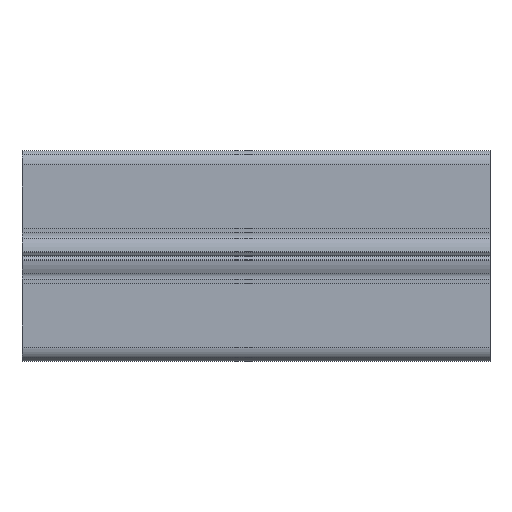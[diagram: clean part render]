
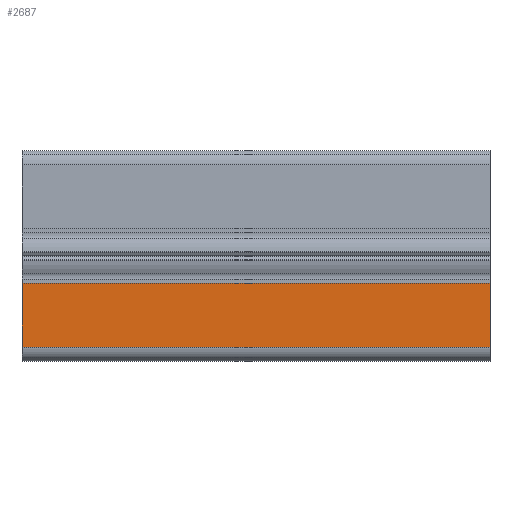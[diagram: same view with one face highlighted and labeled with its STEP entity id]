
A CAD part, left-side view. The second image highlights one B-rep face of the part: STEP entity #2687.
In plain terms, the highlighted planar face has unit normal (-1, 0, 0).
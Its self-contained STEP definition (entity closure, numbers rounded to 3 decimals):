
#203 = ORIENTED_EDGE ( 'NONE', *, *, #5250, .F. ) ;
#288 = CARTESIAN_POINT ( 'NONE',  ( -22.5, 50., -5.876 ) ) ;
#838 = CARTESIAN_POINT ( 'NONE',  ( -22.5, 50., -19.5 ) ) ;
#856 = ORIENTED_EDGE ( 'NONE', *, *, #2594, .F. ) ;
#859 = DIRECTION ( 'NONE',  ( 0., -1., 0. ) ) ;
#1563 = CARTESIAN_POINT ( 'NONE',  ( -22.5, 50., -19.5 ) ) ;
#2552 = LINE ( 'NONE', #4955, #3886 ) ;
#2594 = EDGE_CURVE ( 'NONE', #7185, #4514, #4486, .T. ) ;
#2687 = ADVANCED_FACE ( 'NONE', ( #4059 ), #6996, .F. ) ;
#3136 = LINE ( 'NONE', #7460, #6427 ) ;
#3275 = CARTESIAN_POINT ( 'NONE',  ( -22.5, 50., -19.5 ) ) ;
#3353 = VERTEX_POINT ( 'NONE', #7852 ) ;
#3463 = DIRECTION ( 'NONE',  ( 1., 0., 0. ) ) ;
#3469 = EDGE_CURVE ( 'NONE', #3353, #6716, #3136, .T. ) ;
#3499 = EDGE_CURVE ( 'NONE', #7185, #3353, #2552, .T. ) ;
#3648 = ORIENTED_EDGE ( 'NONE', *, *, #3469, .T. ) ;
#3886 = VECTOR ( 'NONE', #7378, 1000. ) ;
#4059 = FACE_OUTER_BOUND ( 'NONE', #6636, .T. ) ;
#4486 = LINE ( 'NONE', #3275, #5257 ) ;
#4514 = VERTEX_POINT ( 'NONE', #7020 ) ;
#4636 = ORIENTED_EDGE ( 'NONE', *, *, #3499, .T. ) ;
#4955 = CARTESIAN_POINT ( 'NONE',  ( -22.5, 50., -19.5 ) ) ;
#5204 = DIRECTION ( 'NONE',  ( 0., 0., -1. ) ) ;
#5250 = EDGE_CURVE ( 'NONE', #4514, #6716, #6291, .T. ) ;
#5257 = VECTOR ( 'NONE', #6920, 1000. ) ;
#5671 = DIRECTION ( 'NONE',  ( 0., 0., 1. ) ) ;
#6025 = AXIS2_PLACEMENT_3D ( 'NONE', #1563, #3463, #5204 ) ;
#6291 = LINE ( 'NONE', #288, #6623 ) ;
#6352 = CARTESIAN_POINT ( 'NONE',  ( -22.5, -50., -5.876 ) ) ;
#6427 = VECTOR ( 'NONE', #5671, 1000. ) ;
#6623 = VECTOR ( 'NONE', #859, 1000. ) ;
#6636 = EDGE_LOOP ( 'NONE', ( #3648, #203, #856, #4636 ) ) ;
#6716 = VERTEX_POINT ( 'NONE', #6352 ) ;
#6920 = DIRECTION ( 'NONE',  ( 0., 0., 1. ) ) ;
#6996 = PLANE ( 'NONE',  #6025 ) ;
#7020 = CARTESIAN_POINT ( 'NONE',  ( -22.5, 50., -5.876 ) ) ;
#7185 = VERTEX_POINT ( 'NONE', #838 ) ;
#7378 = DIRECTION ( 'NONE',  ( 0., -1., 0. ) ) ;
#7460 = CARTESIAN_POINT ( 'NONE',  ( -22.5, -50., -19.5 ) ) ;
#7852 = CARTESIAN_POINT ( 'NONE',  ( -22.5, -50., -19.5 ) ) ;
